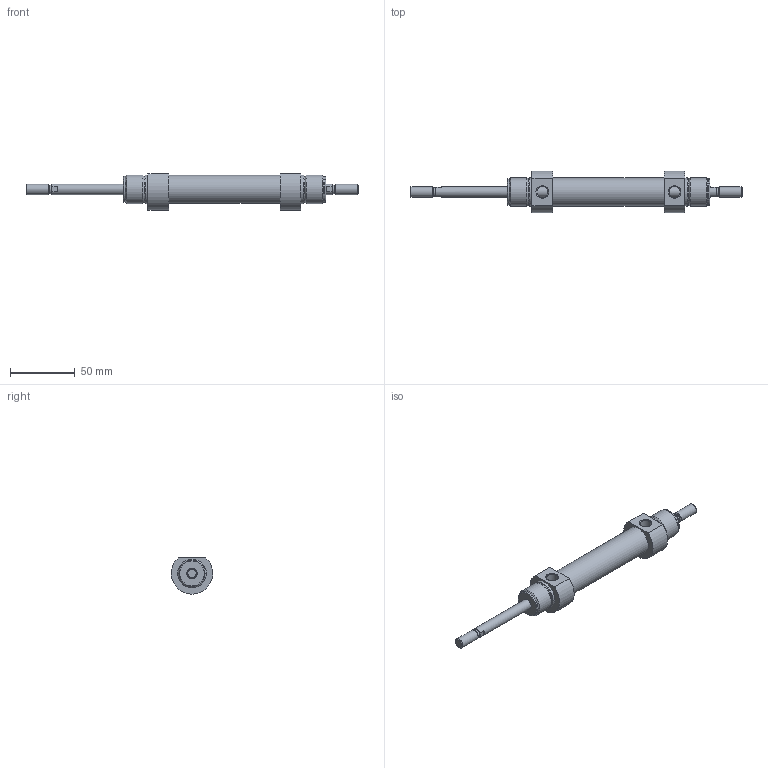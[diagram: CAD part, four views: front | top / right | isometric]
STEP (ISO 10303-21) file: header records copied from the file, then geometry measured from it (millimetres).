
FILE_DESCRIPTION( ( 'STEP AP203' ), '1' );
FILE_NAME( '//expscmdclustefs.cadenas.external/client_exchange/iodir/jobs/output/wkb68460651_no0/STEP/M101-020-0050-M__0__2_03.stp', ' ', ( ' ' ), ( ' ' ), 'PSStep 15.0.47', 'PARTsolutions', ' ' );
FILE_SCHEMA( ( 'CONFIG_CONTROL_DESIGN' ) );
Length unit declared in the file: millimetre
Products named in the file (3): M101-020-0050-M [0]; HI_M101-020-0050-M-[0]-z; HI_M101-020-0050-M-[0]-k
Assembly tree (2 placements, depth 2):
  M101-020-0050-M [0]
    HI_M101-020-0050-M-[0]-z
    HI_M101-020-0050-M-[0]-k
Bounding box: 256 x 32 x 28 mm (x, y, z)
Volume: 60100.2 mm3; surface area: 28042.3 mm2
Topology: 2 solids, 2 shells, 65 faces, 129 edges, 80 vertices
Faces by surface type: plane 26, cylinder 23, cone 14, torus 2
Full cylindrical faces by diameter (mm): 6.466 x2, 8 x6, 8.566 x2, 20 x2, 20.16 x4, 21.6 x1, 22 x4
Entity records: 1702 total; most frequent: CARTESIAN_POINT 356, DIRECTION 280, ORIENTED_EDGE 184, AXIS2_PLACEMENT_3D 128, EDGE_LOOP 116, EDGE_CURVE 92, FACE_OUTER_BOUND 88, VERTEX_POINT 76
